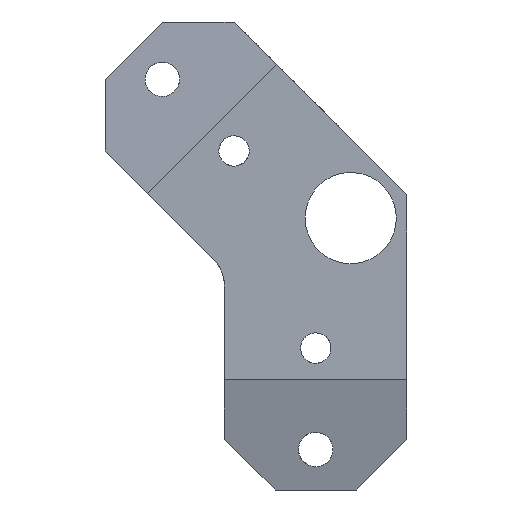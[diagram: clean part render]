
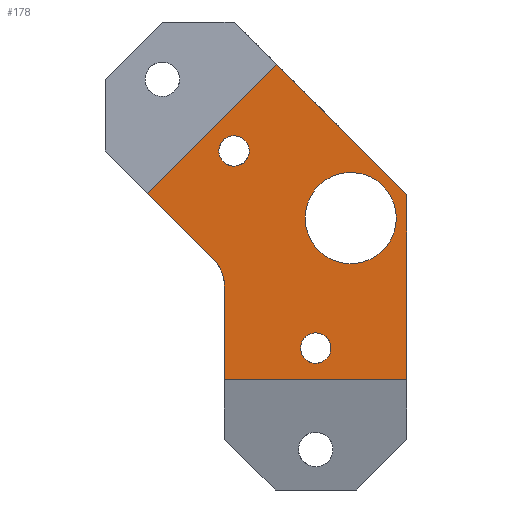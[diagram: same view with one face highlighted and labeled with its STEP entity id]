
A CAD part, left-side view. The second image highlights one B-rep face of the part: STEP entity #178.
In plain terms, the highlighted planar face has unit normal (-1, 0, 0).
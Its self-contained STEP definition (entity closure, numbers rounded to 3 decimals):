
#178=ADVANCED_FACE('Kontur',(#404,#405,#406,#407),#408,.F.);
#404=FACE_OUTER_BOUND('',#677,.T.);
#405=FACE_BOUND('',#678,.T.);
#406=FACE_BOUND('',#679,.T.);
#407=FACE_BOUND('',#680,.T.);
#408=PLANE('',#681);
#677=EDGE_LOOP('',(#1183,#1184,#1185,#1186,#1187,#1188,#1189));
#678=EDGE_LOOP('',(#1190,#1191,#1192,#1193));
#679=EDGE_LOOP('',(#1194,#1195,#1196,#1197));
#680=EDGE_LOOP('',(#1198,#1199,#1200,#1201));
#681=AXIS2_PLACEMENT_3D('',#1202,#1203,#1204);
#1183=ORIENTED_EDGE('',*,*,#1849,.F.);
#1184=ORIENTED_EDGE('',*,*,#1850,.T.);
#1185=ORIENTED_EDGE('',*,*,#1851,.F.);
#1186=ORIENTED_EDGE('',*,*,#1852,.F.);
#1187=ORIENTED_EDGE('',*,*,#1853,.F.);
#1188=ORIENTED_EDGE('',*,*,#1854,.F.);
#1189=ORIENTED_EDGE('',*,*,#1822,.F.);
#1190=ORIENTED_EDGE('',*,*,#1767,.T.);
#1191=ORIENTED_EDGE('',*,*,#1855,.T.);
#1192=ORIENTED_EDGE('',*,*,#1856,.T.);
#1193=ORIENTED_EDGE('',*,*,#1764,.T.);
#1194=ORIENTED_EDGE('',*,*,#1857,.T.);
#1195=ORIENTED_EDGE('',*,*,#1759,.T.);
#1196=ORIENTED_EDGE('',*,*,#1753,.T.);
#1197=ORIENTED_EDGE('',*,*,#1858,.T.);
#1198=ORIENTED_EDGE('',*,*,#1859,.T.);
#1199=ORIENTED_EDGE('',*,*,#1693,.T.);
#1200=ORIENTED_EDGE('',*,*,#1696,.T.);
#1201=ORIENTED_EDGE('',*,*,#1860,.T.);
#1202=CARTESIAN_POINT('',(-18.0,0.0,0.0));
#1203=DIRECTION('',(1.0,0.0,0.0));
#1204=DIRECTION('',(0.0,1.0,0.0));
#1693=EDGE_CURVE('',#2046,#2050,#2052,.T.);
#1696=EDGE_CURVE('',#2050,#2054,#2057,.T.);
#1753=EDGE_CURVE('',#2151,#2149,#2152,.T.);
#1759=EDGE_CURVE('',#2157,#2151,#2160,.T.);
#1764=EDGE_CURVE('',#2163,#2166,#2168,.T.);
#1767=EDGE_CURVE('',#2166,#2170,#2172,.T.);
#1822=EDGE_CURVE('',#2255,#2257,#2258,.T.);
#1849=EDGE_CURVE('',#2301,#2255,#2302,.T.);
#1850=EDGE_CURVE('',#2301,#2303,#2304,.T.);
#1851=EDGE_CURVE('',#2305,#2303,#2306,.T.);
#1852=EDGE_CURVE('',#2307,#2305,#2308,.F.);
#1853=EDGE_CURVE('',#2309,#2307,#2310,.T.);
#1854=EDGE_CURVE('',#2257,#2309,#2311,.T.);
#1855=EDGE_CURVE('',#2170,#2312,#2313,.T.);
#1856=EDGE_CURVE('',#2312,#2163,#2314,.T.);
#1857=EDGE_CURVE('',#2315,#2157,#2316,.T.);
#1858=EDGE_CURVE('',#2149,#2315,#2317,.T.);
#1859=EDGE_CURVE('',#2318,#2046,#2319,.T.);
#1860=EDGE_CURVE('',#2054,#2318,#2320,.T.);
#2046=VERTEX_POINT('',#2729);
#2050=VERTEX_POINT('',#2734);
#2052=CIRCLE('',#2737,9.0);
#2054=VERTEX_POINT('',#2739);
#2057=CIRCLE('',#2743,9.0);
#2149=VERTEX_POINT('',#3041);
#2151=VERTEX_POINT('',#3044);
#2152=CIRCLE('',#3045,3.0);
#2157=VERTEX_POINT('',#3071);
#2160=CIRCLE('',#3095,3.0);
#2163=VERTEX_POINT('',#3098);
#2166=VERTEX_POINT('',#3122);
#2168=CIRCLE('',#3125,3.0);
#2170=VERTEX_POINT('',#3127);
#2172=CIRCLE('',#3130,3.0);
#2255=VERTEX_POINT('',#3329);
#2257=VERTEX_POINT('',#3332);
#2258=LINE('',#3333,#3334);
#2301=VERTEX_POINT('',#3436);
#2302=LINE('',#3437,#3438);
#2303=VERTEX_POINT('',#3439);
#2304=LINE('',#3440,#3441);
#2305=VERTEX_POINT('',#3442);
#2306=LINE('',#3443,#3444);
#2307=VERTEX_POINT('',#3445);
#2308=CIRCLE('',#3446,7.5);
#2309=VERTEX_POINT('',#3447);
#2310=LINE('',#3448,#3449);
#2311=LINE('',#3450,#3451);
#2312=VERTEX_POINT('',#3452);
#2313=CIRCLE('',#3453,3.0);
#2314=CIRCLE('',#3454,3.0);
#2315=VERTEX_POINT('',#3455);
#2316=CIRCLE('',#3456,3.0);
#2317=CIRCLE('',#3457,3.0);
#2318=VERTEX_POINT('',#3458);
#2319=CIRCLE('',#3459,9.0);
#2320=CIRCLE('',#3460,9.0);
#2729=CARTESIAN_POINT('',(-18.0,-15.91,25.652));
#2734=CARTESIAN_POINT('',(-18.0,-14.808,21.337));
#2737=AXIS2_PLACEMENT_3D('',#3893,#3894,#3895);
#2739=CARTESIAN_POINT('',(-18.0,2.09,25.652));
#2743=AXIS2_PLACEMENT_3D('',#3897,#3898,#3899);
#3041=CARTESIAN_POINT('',(-18.0,3.0,0.));
#3044=CARTESIAN_POINT('',(-18.0,-2.633,-1.438));
#3045=AXIS2_PLACEMENT_3D('',#3972,#3973,#3974);
#3071=CARTESIAN_POINT('',(-18.0,-3.0,0.));
#3095=AXIS2_PLACEMENT_3D('',#3977,#3978,#3979);
#3098=CARTESIAN_POINT('',(-18.0,13.115,38.905));
#3122=CARTESIAN_POINT('',(-18.0,18.994,38.06));
#3125=AXIS2_PLACEMENT_3D('',#3982,#3983,#3984);
#3127=CARTESIAN_POINT('',(-18.0,19.115,38.905));
#3130=AXIS2_PLACEMENT_3D('',#3986,#3987,#3988);
#3329=CARTESIAN_POINT('',(-18.0,-18.0,30.246));
#3332=CARTESIAN_POINT('',(-18.0,-18.0,-6.233));
#3333=CARTESIAN_POINT('',(-18.0,-18.0,12.006));
#3334=VECTOR('',#4059,1.0);
#3436=CARTESIAN_POINT('',(-18.0,7.795,56.041));
#3437=CARTESIAN_POINT('',(-18.0,-5.103,43.143));
#3438=VECTOR('',#4094,1.0);
#3439=CARTESIAN_POINT('',(-18.0,33.251,30.585));
#3440=CARTESIAN_POINT('',(-18.0,20.523,43.313));
#3441=VECTOR('',#4095,1.0);
#3442=CARTESIAN_POINT('',(-18.0,20.197,17.531));
#3443=CARTESIAN_POINT('',(-18.0,26.724,24.058));
#3444=VECTOR('',#4096,1.0);
#3445=CARTESIAN_POINT('',(-18.0,18.0,12.228));
#3446=AXIS2_PLACEMENT_3D('',#4097,#4098,#4099);
#3447=CARTESIAN_POINT('',(-18.0,18.0,-6.233));
#3448=CARTESIAN_POINT('',(-18.0,18.0,2.997));
#3449=VECTOR('',#4100,1.0);
#3450=CARTESIAN_POINT('',(-18.0,0.,-6.233));
#3451=VECTOR('',#4101,1.0);
#3452=CARTESIAN_POINT('',(-18.0,13.236,39.75));
#3453=AXIS2_PLACEMENT_3D('',#4102,#4103,#4104);
#3454=AXIS2_PLACEMENT_3D('',#4105,#4106,#4107);
#3455=CARTESIAN_POINT('',(-18.0,2.633,1.438));
#3456=AXIS2_PLACEMENT_3D('',#4108,#4109,#4110);
#3457=AXIS2_PLACEMENT_3D('',#4111,#4112,#4113);
#3458=CARTESIAN_POINT('',(-18.0,0.988,29.967));
#3459=AXIS2_PLACEMENT_3D('',#4114,#4115,#4116);
#3460=AXIS2_PLACEMENT_3D('',#4117,#4118,#4119);
#3893=CARTESIAN_POINT('',(-18.0,-6.91,25.652));
#3894=DIRECTION('',(1.0,0.0,0.0));
#3895=DIRECTION('',(0.0,1.0,0.0));
#3897=CARTESIAN_POINT('',(-18.0,-6.91,25.652));
#3898=DIRECTION('',(1.0,0.0,0.0));
#3899=DIRECTION('',(0.0,1.0,0.0));
#3972=CARTESIAN_POINT('',(-18.0,0.,0.));
#3973=DIRECTION('',(1.0,0.0,0.0));
#3974=DIRECTION('',(0.0,1.0,0.0));
#3977=CARTESIAN_POINT('',(-18.0,0.,0.));
#3978=DIRECTION('',(1.0,0.0,0.0));
#3979=DIRECTION('',(0.0,1.0,0.0));
#3982=CARTESIAN_POINT('',(-18.0,16.115,38.905));
#3983=DIRECTION('',(1.0,0.0,0.0));
#3984=DIRECTION('',(0.0,1.0,0.0));
#3986=CARTESIAN_POINT('',(-18.0,16.115,38.905));
#3987=DIRECTION('',(1.0,0.0,0.0));
#3988=DIRECTION('',(0.0,1.0,0.0));
#4059=DIRECTION('',(0.0,0.0,-1.0));
#4094=DIRECTION('',(0.0,-0.707,-0.707));
#4095=DIRECTION('',(0.0,0.707,-0.707));
#4096=DIRECTION('',(0.0,0.707,0.707));
#4097=CARTESIAN_POINT('',(-18.0,25.5,12.228));
#4098=DIRECTION('',(1.0,0.0,0.0));
#4099=DIRECTION('',(0.0,1.0,0.0));
#4100=DIRECTION('',(0.0,0.0,1.0));
#4101=DIRECTION('',(0.0,1.0,0.0));
#4102=CARTESIAN_POINT('',(-18.0,16.115,38.905));
#4103=DIRECTION('',(1.0,0.0,0.0));
#4104=DIRECTION('',(0.0,1.0,0.0));
#4105=CARTESIAN_POINT('',(-18.0,16.115,38.905));
#4106=DIRECTION('',(1.0,0.0,0.0));
#4107=DIRECTION('',(0.0,1.0,0.0));
#4108=CARTESIAN_POINT('',(-18.0,0.,0.));
#4109=DIRECTION('',(1.0,0.0,0.0));
#4110=DIRECTION('',(0.0,1.0,0.0));
#4111=CARTESIAN_POINT('',(-18.0,0.,0.));
#4112=DIRECTION('',(1.0,0.0,0.0));
#4113=DIRECTION('',(0.0,1.0,0.0));
#4114=CARTESIAN_POINT('',(-18.0,-6.91,25.652));
#4115=DIRECTION('',(1.0,0.0,0.0));
#4116=DIRECTION('',(0.0,1.0,0.0));
#4117=CARTESIAN_POINT('',(-18.0,-6.91,25.652));
#4118=DIRECTION('',(1.0,0.0,0.0));
#4119=DIRECTION('',(0.0,1.0,0.0));
